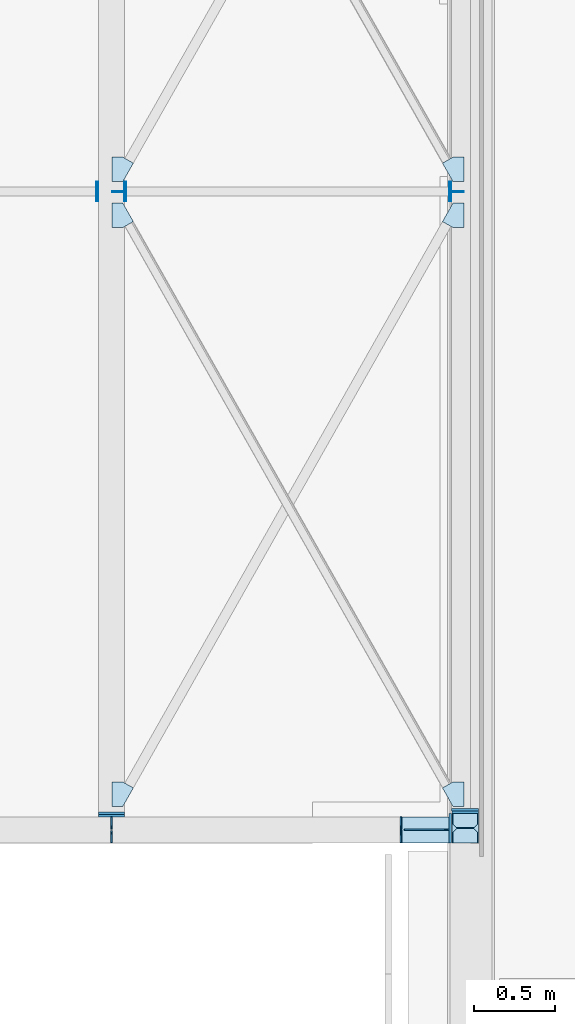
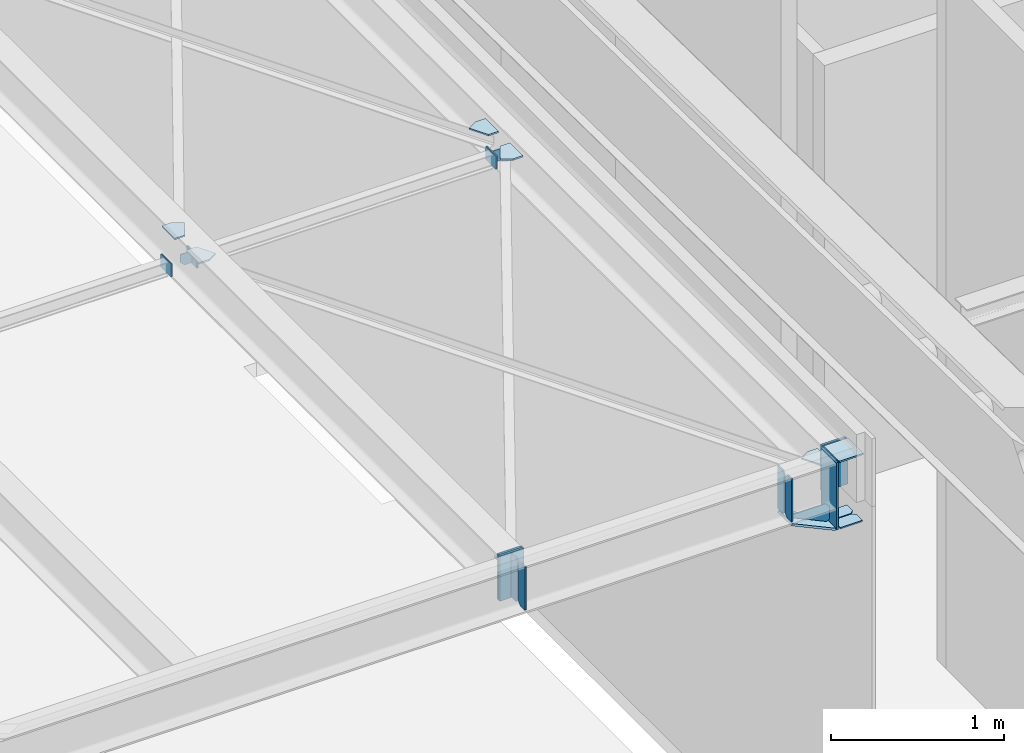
# One storey, part 119 of 186: 30 plates.
"""IFC4X3_ADD2 building model written with IfcOpenShell, lengths in millimetres."""

from ifc_helpers import new_model, si_unit, direction, frame, frame_2d, origin_with_axes, place, context, subcontext, project, spatial, polyline, rectangle, outline, extrude, material, element, save


model = new_model("IFC4X3_ADD2")

# Units and contexts
model_context = context("Model", 3, precision=1e-05, world=origin_with_axes(), true_north=direction((0.0, 1.0)))
body_context = subcontext(model_context, "Body", "Model", "MODEL_VIEW")
ifc_project = project(units=[si_unit("LENGTHUNIT", "METRE", prefix="MILLI"), si_unit("AREAUNIT", "SQUARE_METRE"), si_unit("VOLUMEUNIT", "CUBIC_METRE"), si_unit("PLANEANGLEUNIT", "RADIAN"), si_unit("TIMEUNIT", "SECOND"), si_unit("MASSUNIT", "GRAM")], contexts=[model_context])

# Site, building, storey
site_placement = place(None, origin_with_axes())
site = spatial("IfcSite", under=ifc_project, at=site_placement, Name="Site", CompositionType="ELEMENT")
building_placement = place(site_placement, origin_with_axes())
building = spatial("IfcBuilding", under=site, at=building_placement, Name="IFC Building Story")
storey_placement = place(building_placement, frame((0.0, 0.0, 4370.0), z_axis=(0.0, 0.0, 1.0), x_axis=(1.0, 0.0, 0.0)))
storey = spatial("IfcBuildingStorey", under=building, at=storey_placement, Name="ETAGE 10 (1)", Elevation=4370.0)

# Plates
ifc_material = material(Name="Acier - B 500 B")
plate_1_placement = place(storey_placement, frame((39856.18934826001, 4518.839653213, 2920.0), z_axis=(0.0, 0.0, 1.0), x_axis=(1.0, 0.0, 0.0)))
element("IfcPlate", 1, at=plate_1_placement, inside=storey, material=ifc_material, Name="-", ObjectType="Aucun", context=body_context, shape_type="SweptSolid", body=[
    extrude(outline(polyline([(74.9999999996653, 14.00000000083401), (74.9999999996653, -50.50000000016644), (-75.0000000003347, -50.50000000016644), (-75.0000000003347, 13.99999999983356), (-52.49999999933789, 36.49999999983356), (52.50000000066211, 36.49999999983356), (74.9999999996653, 14.00000000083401)])), frame((75.0000000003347, 50.50000000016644, 0.0), z_axis=(0.0, 0.0, 1.0), x_axis=(1.0, 0.0, 0.0)), (0.0, 0.0, 1.0), 10.0),
])
plate_2_placement = place(storey_placement, frame((39856.18934826, 4611.839653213, 2920.0), z_axis=(0.0, 0.0, 1.0), x_axis=(1.0, 0.0, 0.0)))
element("IfcPlate", 2, at=plate_2_placement, inside=storey, material=ifc_material, Name="-", ObjectType="Aucun", context=body_context, shape_type="SweptSolid", body=[
    extrude(outline(polyline([(74.99999999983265, 50.49999999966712), (74.99999999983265, -13.99999999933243), (52.49999999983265, -36.50000000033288), (-52.49999999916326, -36.50000000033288), (-75.00000000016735, -13.99999999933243), (-75.00000000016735, 50.49999999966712), (74.99999999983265, 50.49999999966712)])), frame((75.00000000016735, 36.50000000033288, 0.0), z_axis=(0.0, 0.0, 1.0), x_axis=(1.0, 0.0, 0.0)), (0.0, 0.0, 1.0), 10.0),
])
plate_3_placement = place(storey_placement, frame((39850.689348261, 4698.839653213, 3390.0), z_axis=(0.0, 0.0, 1.0), x_axis=(0.0, -1.0, 0.0)))
element("IfcPlate", 3, at=plate_3_placement, inside=storey, material=ifc_material, Name="-", ObjectType="Aucun", context=body_context, shape_type="SweptSolid", body=[
    extrude(rectangle(XDim=180.0, YDim=161.0, at=frame_2d((0.0, 5.95523630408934e-12), x_axis=(-1.0, 0.0))), frame((90.0, 80.5, 0.0), z_axis=(0.0, 0.0, 1.0), x_axis=(1.0, 0.0, 0.0)), (0.0, 0.0, 1.0), 10.0),
])
plate_4_placement = place(storey_placement, frame((39530.689348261, 4595.089653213, 3082.5), z_axis=(0.0, 0.0, 1.0), x_axis=(0.0, -1.0, 0.0)))
element("IfcPlate", 4, at=plate_4_placement, inside=storey, material=ifc_material, Name="-", ObjectType="Aucun", context=body_context, shape_type="SweptSolid", body=[
    extrude(outline(polyline([(-7.41666666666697, -152.5), (-34.41666666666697, -125.5), (-34.41666666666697, 125.5), (-7.41666666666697, 152.5), (41.83333333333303, 152.5), (41.83333333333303, -152.5), (-7.41666666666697, -152.5)])), frame((34.41666666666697, 0.0, 152.5), z_axis=(0.0, 1.0, 0.0), x_axis=(1.0, 0.0, 0.0)), (0.0, 0.0, 1.0), 10.0),
])
plate_5_placement = place(storey_placement, frame((37751.189348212, 4594.089653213, 3082.5), z_axis=(0.0, 0.0, 1.0), x_axis=(0.0, -1.0, 0.0)))
element("IfcPlate", 5, at=plate_5_placement, inside=storey, material=ifc_material, Name="-", ObjectType="Aucun", context=body_context, shape_type="SweptSolid", body=[
    extrude(outline(polyline([(-31.75, -132.5), (-31.75, 132.5), (-11.75, 152.5), (43.5, 152.5), (43.5, -152.5), (-11.75, -152.5), (-31.75, -132.5)])), frame((31.75, 0.0, 152.5), z_axis=(0.0, 1.0, 0.0), x_axis=(1.0, 0.0, 0.0)), (0.0, 0.0, 1.0), 10.0),
])
for number, where, z_axis, x_axis in (
    (6, (37751.189348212, 4678.839653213, 3082.5), (0.0, 0.0, 1.0), (0.0, -1.0, 0.0)),
    (7, (39530.689348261, 4678.839653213, 3082.5), (0.0, 0.0, 1.0), (0.0, -1.0, 0.0)),
):
    element("IfcPlate", number, at=place(storey_placement, frame(where, z_axis=z_axis, x_axis=x_axis)), inside=storey, material=ifc_material, Name="-", ObjectType="Aucun", context=body_context, shape_type="SweptSolid", body=[
        extrude(outline(polyline([(11.75, -152.5), (-43.5, -152.5), (-43.5, 152.5), (11.75, 152.5), (31.75, 132.5), (31.75, -132.5), (11.75, -152.5)])), frame((43.5, 0.0, 152.5), z_axis=(0.0, 1.0, 0.0), x_axis=(1.0, 0.0, 0.0)), (0.0, 0.0, 1.0), 10.0),
    ])
plate_6_placement = place(storey_placement, frame((37759.939348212, 4893.363171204, 3230.0), z_axis=(0.0, 0.0, 1.0), x_axis=(0.0, -1.0, 0.0)))
element("IfcPlate", 8, at=plate_6_placement, inside=storey, material=ifc_material, Name="-", ObjectType="Aucun", context=body_context, shape_type="SweptSolid", body=[
    extrude(outline(polyline([(82.62953181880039, -52.91028799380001), (-67.37046818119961, -52.91028799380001), (-67.37046818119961, 13.18460362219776), (-30.51812727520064, 78.32426385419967), (82.62953181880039, 14.3117085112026), (82.62953181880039, -52.91028799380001)])), frame((67.37046818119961, 52.91028799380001, 0.0), z_axis=(0.0, 0.0, 1.0), x_axis=(1.0, 0.0, 0.0)), (0.0, 0.0, 1.0), 10.0),
])
plate_7_placement = place(storey_placement, frame((39791.204796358, 4893.363171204, 3230.0), z_axis=(0.0, 0.0, 1.0), x_axis=(0.0, -1.0, 0.0)))
element("IfcPlate", 9, at=plate_7_placement, inside=storey, material=ifc_material, Name="-", ObjectType="Aucun", context=body_context, shape_type="SweptSolid", body=[
    extrude(outline(polyline([(-67.37046818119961, -13.18460362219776), (-67.37046818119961, 52.91028799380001), (82.62953181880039, 52.91028799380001), (82.62953181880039, -14.31170851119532), (-30.51812727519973, -78.32426385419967), (-67.37046818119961, -13.18460362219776)])), frame((67.37046818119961, 78.32426385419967, 0.0), z_axis=(0.0, 0.0, 1.0), x_axis=(1.0, 0.0, 0.0)), (0.0, 0.0, 1.0), 10.0),
])
plate_8_placement = place(storey_placement, frame((39791.204796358, 8449.976482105, 3230.0), z_axis=(0.0, 0.0, 1.0), x_axis=(0.0, -1.0, 0.0)))
element("IfcPlate", 10, at=plate_8_placement, inside=storey, material=ifc_material, Name="-", ObjectType="Aucun", context=body_context, shape_type="SweptSolid", body=[
    extrude(outline(polyline([(67.37046818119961, 52.91028799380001), (67.37046818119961, -13.18460362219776), (30.51812727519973, -78.32426385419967), (-82.62953181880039, -14.31170851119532), (-82.62953181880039, 52.91028799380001), (67.37046818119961, 52.91028799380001)])), frame((82.62953181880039, 78.32426385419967, 0.0), z_axis=(0.0, 0.0, 1.0), x_axis=(1.0, 0.0, 0.0)), (0.0, 0.0, 1.0), 10.0),
])
for number, where, z_axis, x_axis in (
    (11, (39791.204796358, 8733.098030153, 3230.0), (0.0, 0.0, 1.0), (0.0, -1.0, 0.0)),
    (12, (39791.204796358, 8733.098030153, 3230.0), (0.0, 0.0, 1.0), (0.0, -1.0, 0.0)),
):
    element("IfcPlate", number, at=place(storey_placement, frame(where, z_axis=z_axis, x_axis=x_axis)), inside=storey, material=ifc_material, Name="-", ObjectType="Aucun", context=body_context, shape_type="SweptSolid", body=[
        extrude(outline(polyline([(-67.37046818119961, -13.18460362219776), (-67.37046818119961, 52.91028799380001), (82.62953181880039, 52.91028799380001), (82.62953181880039, -14.31170851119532), (-30.51812727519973, -78.32426385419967), (-67.37046818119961, -13.18460362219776)])), frame((67.37046818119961, 78.32426385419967, 0.0), z_axis=(0.0, 0.0, 1.0), x_axis=(1.0, 0.0, 0.0)), (0.0, 0.0, 1.0), 10.0),
    ])
for number, where, z_axis, x_axis in (
    (13, (37759.939348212, 8733.098030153, 3230.0), (0.0, 0.0, 1.0), (0.0, -1.0, 0.0)),
    (14, (37759.939348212, 8733.098030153, 3230.0), (0.0, 0.0, 1.0), (0.0, -1.0, 0.0)),
):
    element("IfcPlate", number, at=place(storey_placement, frame(where, z_axis=z_axis, x_axis=x_axis)), inside=storey, material=ifc_material, Name="-", ObjectType="Aucun", context=body_context, shape_type="SweptSolid", body=[
        extrude(outline(polyline([(-67.38481537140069, -52.94974776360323), (-67.38481537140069, 13.28202653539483), (-30.46073851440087, 78.37832915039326), (82.61518462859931, 14.23913984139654), (82.61518462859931, -52.94974776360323), (-67.38481537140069, -52.94974776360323)])), frame((67.38481537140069, 52.94974776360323, 0.0), z_axis=(0.0, 0.0, 1.0), x_axis=(1.0, 0.0, 0.0)), (0.0, 0.0, 1.0), 10.0),
    ])
plate_9_placement = place(storey_placement, frame((37759.947415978, 8449.962221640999, 3230.0), z_axis=(0.0, 0.0, 1.0), x_axis=(0.0, -1.0, 0.0)))
element("IfcPlate", 15, at=plate_9_placement, inside=storey, material=ifc_material, Name="-", ObjectType="Aucun", context=body_context, shape_type="SweptSolid", body=[
    extrude(outline(polyline([(67.38481537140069, 13.28202653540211), (67.38481537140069, -52.94974776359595), (-82.61518462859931, -52.94974776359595), (-82.61518462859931, 14.23913984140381), (30.46073851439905, 78.37832915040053), (67.38481537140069, 13.28202653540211)])), frame((82.61518462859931, 52.94974776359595, 0.0), z_axis=(0.0, 0.0, 1.0), x_axis=(1.0, 0.0, 0.0)), (0.0, 0.0, 1.0), 10.0),
])
plate_10_placement = place(storey_placement, frame((39830.689348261, 4698.839653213, 2920.0), z_axis=(0.0, 0.0, 1.0), x_axis=(0.0, -1.0, 0.0)))
element("IfcPlate", 16, at=plate_10_placement, inside=storey, material=ifc_material, Name="-", ObjectType="Aucun", context=body_context, shape_type="SweptSolid", body=[
    extrude(rectangle(XDim=180.0, YDim=15.0, at=frame_2d((0.0, 5.95523630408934e-12), x_axis=(-1.0, 0.0))), frame((90.0, 7.5, 0.0), z_axis=(0.0, 0.0, 1.0), x_axis=(1.0, 0.0, 0.0)), (0.0, 0.0, 1.0), 475.0),
])
plate_11_placement = place(storey_placement, frame((39530.68934820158, 4518.839653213, 2919.999999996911), z_axis=(0.0, 0.0, 1.0), x_axis=(1.0, 0.0, 0.0)))
element("IfcPlate", 17, at=plate_11_placement, inside=storey, material=ifc_material, Name="-", ObjectType="Aucun", context=body_context, shape_type="SweptSolid", body=[
    extrude(rectangle(XDim=323.8096593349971, YDim=160.0, at=frame_2d((0.0, 5.95523630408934e-12), x_axis=(1.0, 0.0))), frame((146.8408377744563, 80.0, 68.19781691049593), z_axis=(0.421221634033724, 0.0, 0.906957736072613), x_axis=(0.906957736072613, 0.0, -0.421221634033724)), (0.0, 0.0, 1.0), 14.99999999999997),
])
for number, where, z_axis, x_axis in (
    (18, (37676.189348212, 4693.839653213, 3075.0), (0.0, 0.0, 1.0), (1.0, 0.0, 0.0)),
    (19, (37676.189348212, 4678.839653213, 3075.0), (0.0, 0.0, 1.0), (1.0, 0.0, 0.0)),
):
    element("IfcPlate", number, at=place(storey_placement, frame(where, z_axis=z_axis, x_axis=x_axis)), inside=storey, material=ifc_material, Name="-", ObjectType="Aucun", context=body_context, shape_type="SweptSolid", body=[
        extrude(rectangle(XDim=160.0, YDim=15.0, at=frame_2d((0.0, 5.95523630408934e-12), x_axis=(1.0, 0.0))), frame((80.0, 7.5, 0.0), z_axis=(0.0, 0.0, 1.0), x_axis=(1.0, 0.0, 0.0)), (0.0, 0.0, 1.0), 320.0),
    ])
plate_12_placement = place(storey_placement, frame((39846.189348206, 4713.839653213, 3075.0), z_axis=(0.0, 0.0, 1.0), x_axis=(1.0, 0.0, 0.0)))
element("IfcPlate", 20, at=plate_12_placement, inside=storey, material=ifc_material, Name="-", ObjectType="Aucun", context=body_context, shape_type="SweptSolid", body=[
    extrude(outline(polyline([(78.62540603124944, 159.9763741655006), (84.12378190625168, -159.9291224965), (-81.37459396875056, -160.0236258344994), (-81.37459396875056, 159.9763741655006), (78.62540603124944, 159.9763741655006)])), frame((81.37459396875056, 0.0, 159.9763741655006), z_axis=(0.0, 1.0, 0.0), x_axis=(1.0, 0.0, 0.0)), (0.0, 0.0, 1.0), 15.0),
])
plate_13_placement = place(storey_placement, frame((39850.689348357, 4698.839653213, 3075.0), z_axis=(0.0, 0.0, 1.0), x_axis=(1.0, 0.0, 0.0)))
element("IfcPlate", 21, at=plate_13_placement, inside=storey, material=ifc_material, Name="-", ObjectType="Aucun", context=body_context, shape_type="SweptSolid", body=[
    extrude(outline(polyline([(-80.5, 159.9757315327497), (80.5, 159.9757315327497), (80.5, -159.9297642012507), (-80.5, -160.0216988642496), (-80.5, 159.9757315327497)])), frame((80.5, 0.0, 159.9757315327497), z_axis=(0.0, 1.0, 0.0), x_axis=(1.0, 0.0, 0.0)), (0.0, 0.0, 1.0), 15.0),
])
plate_14_placement = place(storey_placement, frame((39555.584070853, 4594.839653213, 2943.598030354), z_axis=(0.0, 0.0, 1.0), x_axis=(1.0, 0.0, 0.0)))
element("IfcPlate", 22, at=plate_14_placement, inside=storey, material=ifc_material, Name="-", ObjectType="Aucun", context=body_context, shape_type="SweptSolid", body=[
    extrude(outline(polyline([(78.16655245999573, 80.40464493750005), (99.68451454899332, 66.67287945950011), (99.68451454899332, -17.71305346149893), (71.4002433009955, -45.99732470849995), (-173.5150620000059, -45.99732470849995), (-175.4207628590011, -37.36982151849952), (78.16655245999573, 80.40464493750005)])), frame((175.4207628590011, 0.0, 80.40464493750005), z_axis=(0.0, 1.0, 0.0), x_axis=(1.0, 0.0, 0.0)), (0.0, 0.0, 1.0), 8.0),
])
plate_15_placement = place(storey_placement, frame((39846.189348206, 8518.339653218, 3082.5), z_axis=(0.0, 0.0, 1.0), x_axis=(1.0, 0.0, 0.0)))
element("IfcPlate", 23, at=plate_15_placement, inside=storey, material=ifc_material, Name="-", ObjectType="Aucun", context=body_context, shape_type="SweptSolid", body=[
    extrude(outline(polyline([(9.30000000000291, 38.19999999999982), (35.30000000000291, 12.19999999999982), (35.30000000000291, -44.30000000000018), (-39.94999999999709, -44.30000000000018), (-39.94999999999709, 38.19999999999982), (9.30000000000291, 38.19999999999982)])), frame((39.94999999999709, 0.0, 38.19999999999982), z_axis=(0.0, 1.0, 0.0), x_axis=(1.0, 0.0, 0.0)), (0.0, 0.0, 1.0), 6.0),
])
for number, where, z_axis, x_axis in (
    (24, (39834.189348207, 8581.339653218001, 3075.0), (0.0, 0.0, 1.0), (0.0, -1.0, 0.0)),
    (25, (39840.189348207, 8581.339653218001, 3075.0), (0.0, 0.0, 1.0), (0.0, -1.0, 0.0)),
    (26, (37842.189348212, 8581.339653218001, 3075.0), (0.0, 0.0, 1.0), (0.0, -1.0, 0.0)),
    (27, (37836.189348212, 8581.339653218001, 3075.0), (0.0, 0.0, 1.0), (0.0, -1.0, 0.0)),
    (28, (37664.189348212, 8581.339653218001, 3075.0), (0.0, 0.0, 1.0), (0.0, -1.0, 0.0)),
    (29, (37670.189348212, 8581.339653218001, 3075.0), (0.0, 0.0, 1.0), (0.0, -1.0, 0.0)),
):
    element("IfcPlate", number, at=place(storey_placement, frame(where, z_axis=z_axis, x_axis=x_axis)), inside=storey, material=ifc_material, Name="-", ObjectType="Aucun", context=body_context, shape_type="SweptSolid", body=[
        extrude(rectangle(XDim=120.0, YDim=6.0, at=frame_2d((0.0, 5.95523630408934e-12), x_axis=(-1.0, 0.0))), frame((60.0, 3.0, 0.0), z_axis=(0.0, 0.0, 1.0), x_axis=(1.0, 0.0, 0.0)), (0.0, 0.0, 1.0), 90.0),
    ])
plate_16_placement = place(storey_placement, frame((37760.939348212, 8518.339653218, 3082.5), z_axis=(0.0, 0.0, 1.0), x_axis=(1.0, 0.0, 0.0)))
element("IfcPlate", 30, at=plate_16_placement, inside=storey, material=ifc_material, Name="-", ObjectType="Aucun", context=body_context, shape_type="SweptSolid", body=[
    extrude(outline(polyline([(39.94999999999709, 38.19999999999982), (39.94999999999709, -44.30000000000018), (-35.30000000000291, -44.30000000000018), (-35.30000000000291, 12.19999999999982), (-9.30000000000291, 38.19999999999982), (39.94999999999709, 38.19999999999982)])), frame((35.30000000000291, 0.0, 38.19999999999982), z_axis=(0.0, 1.0, 0.0), x_axis=(1.0, 0.0, 0.0)), (0.0, 0.0, 1.0), 6.0),
])

save(model, "model.ifc")
